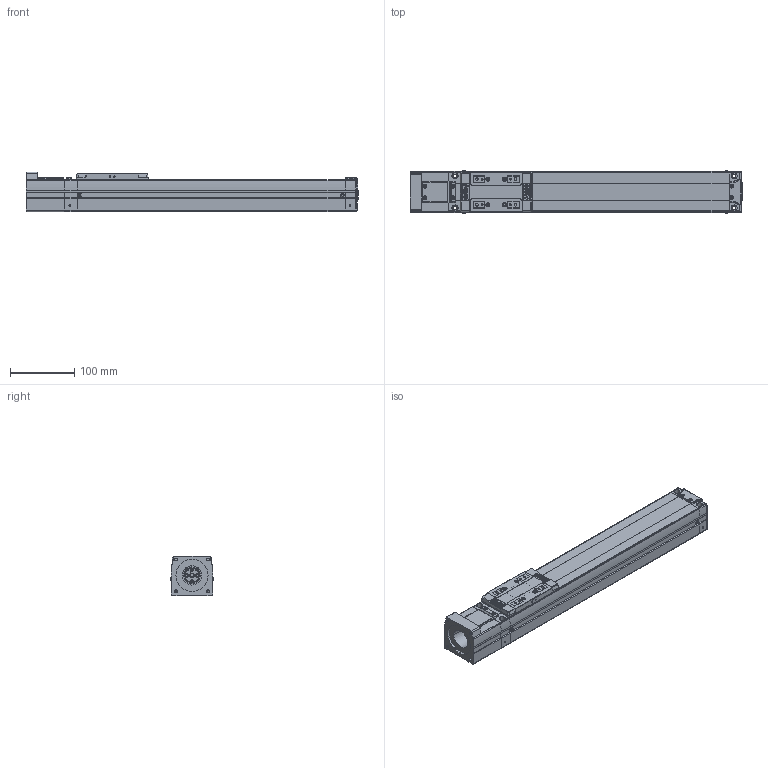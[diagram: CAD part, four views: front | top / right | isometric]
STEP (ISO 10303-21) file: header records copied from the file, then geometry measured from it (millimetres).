
FILE_DESCRIPTION(('STEP AP203'),'1');
FILE_NAME('Z:/Web/3D/SAN65/2012.ver/STP/300/SAN65ㅁㅁ-300S.stp','2014-06-13T06:08:12',(' '),(' '),'Spatial InterOp 3D',' ',' ');
FILE_SCHEMA(('CONFIG_CONTROL_DESIGN'));
Length unit declared in the file: millimetre
Products named in the file (56): 1; 2; 3; 4; 5; 6; 7; 8; 9; 10; 11; 12; 13; 14; 15; 16; 17; 18; 19; 20; 21; 22; 23; 24; 25; 26; 27; 28; 29; 30; 31; 32; 33; 34; 35; 36; 37; 38; 39; 40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
Bounding box: 516.15 x 67.13 x 62 mm (x, y, z)
Volume: 1634396.2 mm3; surface area: 222156.2 mm2
Topology: 56 solids, 56 shells, 2265 faces, 5961 edges, 3854 vertices
Faces by surface type: plane 1037, cylinder 844, cone 294, sphere 36, bspline 28, torus 20, extrusion 6
Full cylindrical faces by diameter (mm): 2.132 x1, 3.5 x2, 6 x2
Entity records: 76071 total; most frequent: CARTESIAN_POINT 16004, DIRECTION 12536, ORIENTED_EDGE 11774, EDGE_CURVE 5887, AXIS2_PLACEMENT_3D 4586, VERTEX_POINT 3853, VECTOR 3364, LINE 3358
